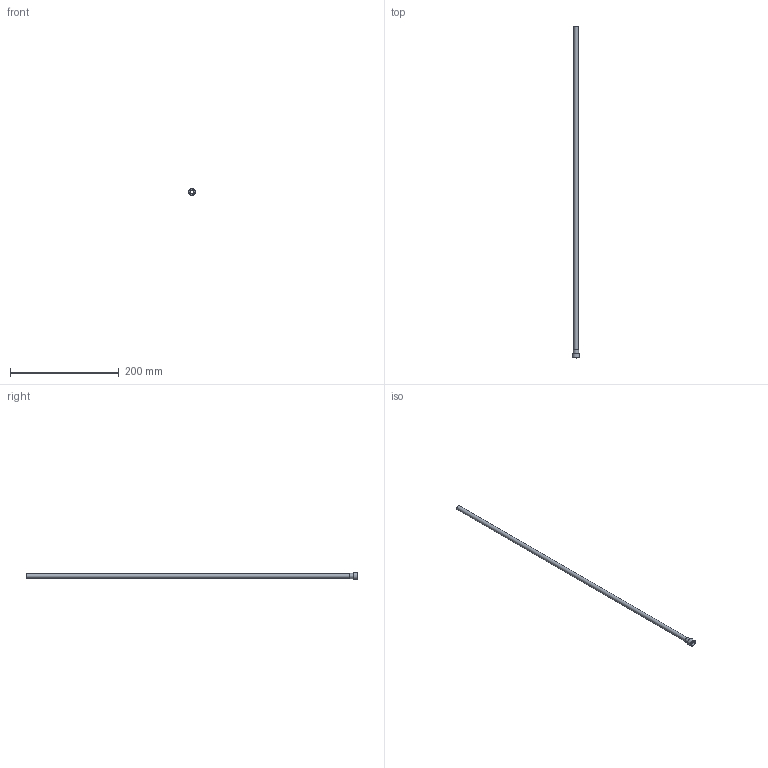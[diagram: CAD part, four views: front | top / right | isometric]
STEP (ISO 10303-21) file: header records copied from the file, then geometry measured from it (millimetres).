
FILE_DESCRIPTION(/* description */ (''),/* implementation_level */ '2;1');
FILE_NAME(/* name */ 'C:/Users/drich/Desktop/R312T-24 v1.step',/* time_stamp */ '2019-12-30T13:18:19-06:00',/* author */ (''),/* organization */ (''),/* preprocessor_version */ 'ST-DEVELOPER v18',/* originating_system */ 'Autodesk Translation Framework v8.12.0.6',/* authorisation */ '');
FILE_SCHEMA (('AUTOMOTIVE_DESIGN { 1 0 10303 214 3 1 1 }'));
Length unit declared in the file: inch
Products named in the file (1): R312T-24
Bounding box: 12.57 x 609.6 x 12.57 mm (x, y, z)
Volume: 5157 mm3; surface area: 29503.1 mm2
Topology: 1 solids, 1 shells, 19 faces, 47 edges, 33 vertices
Faces by surface type: plane 11, cylinder 4, torus 3, cone 1
Full cylindrical faces by diameter (mm): 7.315 x1, 7.925 x1, 9.434 x1, 12.573 x1
Entity records: 624 total; most frequent: DIRECTION 111, CARTESIAN_POINT 100, ORIENTED_EDGE 94, EDGE_CURVE 47, AXIS2_PLACEMENT_3D 44, VERTEX_POINT 33, EDGE_LOOP 24, CIRCLE 24
